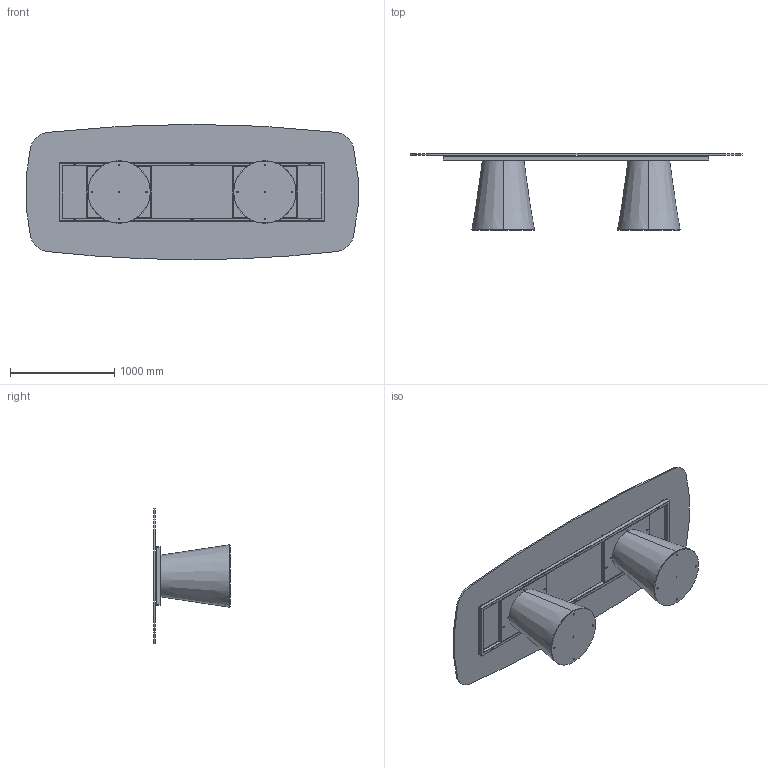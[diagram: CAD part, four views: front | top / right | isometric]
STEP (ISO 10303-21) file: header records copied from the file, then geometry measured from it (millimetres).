
FILE_DESCRIPTION (( 'STEP AP203' ), '1' );
FILE_NAME ('TO46G_Teo_320x130_Glass Shaped.STEP', '2024-08-02T09:41:35', ( '' ), ( '' ), 'SwSTEP 2.0', 'SolidWorks 2022', '' );
FILE_SCHEMA (( 'CONFIG_CONTROL_DESIGN' ));
Length unit declared in the file: millimetre
Products named in the file (11): TTAV03_01-06-RING TUBO TELAIO UNIVERSALE X TAVOLI 300-340cm; BASE TED LEGNO CON ZAVORRA; COLLO TELAIO UNIVERSALE TTAV03 CON FERRAMENTA_MTG TOP CRISTALLO VERNICIATO-CERAMICA; TEO000000PIA-00-TEO PIASTRA DI BASE IN METALLO GREZZO; 434070-00-PIEDINO TPV GOMMA NERO D. 30x8max18_filo estetico; TO46G_Teo_320x130_Glass Shaped; M8xXXmm_hex_M8X20mm; C4XCRXX-00-Piani Sagomati in Cristallo_3200 x 1300; TTAV03_02-06-VASSOIO IRRIGIDIMENTO TELAIO UNIVERSALE RETTANGOLARE; TEO0000-00-TEO BASE LEGNO IMPIALLACCIATA LEVIGATO PRONTA X VERNICE; TTAV03-06-TELAIO UNIVERSALE X TAVOLI 300-340cm
Assembly tree (22 placements, depth 4):
  TO46G_Teo_320x130_Glass Shaped
    BASE TED LEGNO CON ZAVORRA  x2
      TEO000000PIA-00-TEO PIASTRA DI BASE IN METALLO GREZZO
      TEO0000-00-TEO BASE LEGNO IMPIALLACCIATA LEVIGATO PRONTA X VERNICE
      M8xXXmm_hex_M8X20mm
    COLLO TELAIO UNIVERSALE TTAV03 CON FERRAMENTA_MTG TOP CRISTALLO VERNICIATO-CERAMICA
      TTAV03-06-TELAIO UNIVERSALE X TAVOLI 300-340cm
        TTAV03_01-06-RING TUBO TELAIO UNIVERSALE X TAVOLI 300-340cm
        TTAV03_02-06-VASSOIO IRRIGIDIMENTO TELAIO UNIVERSALE RETTANGOLARE  x2
      434070-00-PIEDINO TPV GOMMA NERO D. 30x8max18_filo estetico  x8
    C4XCRXX-00-Piani Sagomati in Cristallo_3200 x 1300
Bounding box: 3189.57 x 738.19 x 1300 mm (x, y, z)
Volume: 118571886.6 mm3; surface area: 17497695.9 mm2
Topology: 32 solids, 32 shells, 863 faces, 1955 edges, 1146 vertices
Faces by surface type: plane 422, cylinder 281, cone 104, torus 48, sphere 8
Entity records: 12116 total; most frequent: DIRECTION 1957, CARTESIAN_POINT 1807, ORIENTED_EDGE 1734, EDGE_CURVE 867, AXIS2_PLACEMENT_3D 715, VERTEX_POINT 533, LINE 527, VECTOR 527
